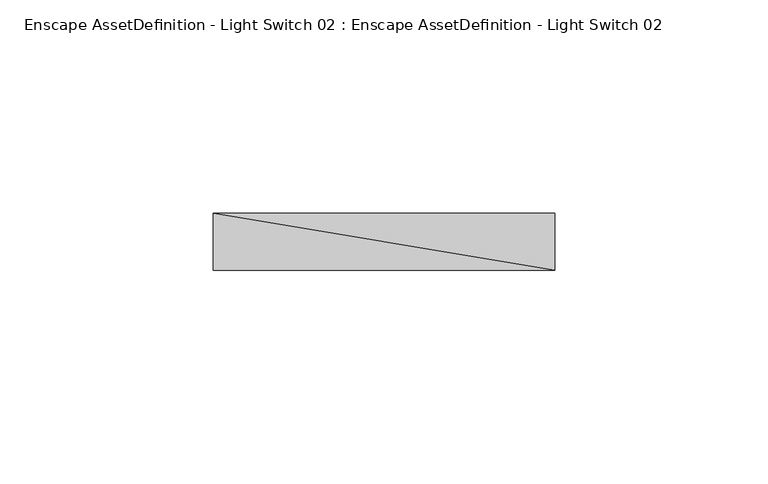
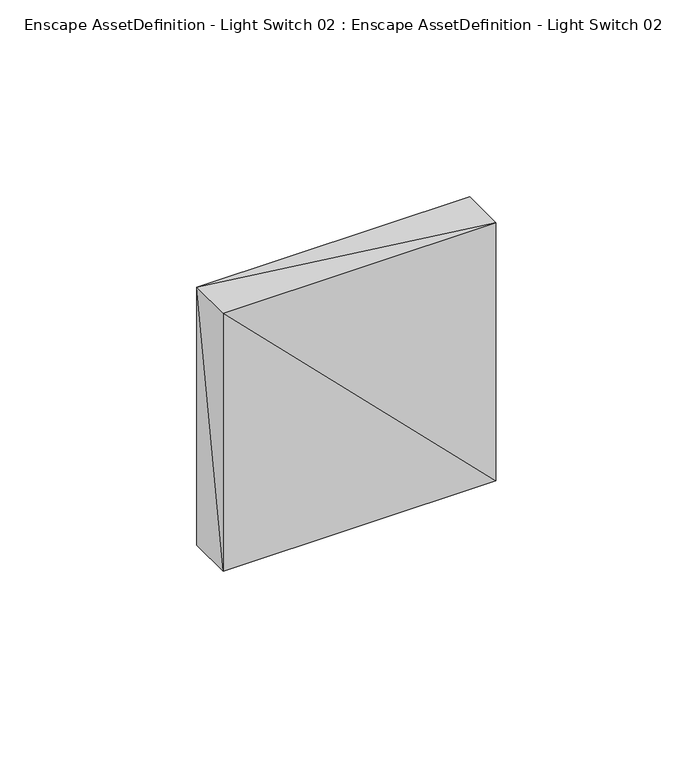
"""IFC4 building model written with IfcOpenShell, lengths in millimetres: geographic element geometry, Enscape AssetDefinition - Light Switch 02 : Enscape AssetDefinition - Light Switch 02."""

from ifc_helpers import new_model, si_unit, origin, place, context, project, spatial, faceted_brep, source, transform, mapped, element, save


def enscape_assetdefinition_light_switch_02_enscape_f65dbdaa(model_context):
    return source(origin(), model_context, "Body", "Brep", [
        faceted_brep([(-39.9999991, 0.0, 39.9999991), (-39.9999991, -13.3290002, 39.9999991), (39.9999991, -13.3290002, 39.9999991), (39.9999991, 0.0, 39.9999991), (-39.9999991, -13.3290002, -39.9999991), (-39.9999991, 0.0, -39.9999991), (39.9999991, -13.3290002, -39.9999991), (39.9999991, 0.0, -39.9999991)], [[[0, 1, 2]], [[0, 2, 3]], [[4, 1, 0]], [[4, 0, 5]], [[6, 2, 1]], [[6, 1, 4]], [[7, 3, 2]], [[7, 2, 6]], [[5, 0, 3]], [[5, 3, 7]], [[5, 6, 4]], [[5, 7, 6]]]),
    ])


if __name__ == "__main__":
    model = new_model("IFC4")
    model_context = context("Model", 3, world=origin())
    ifc_project = project(units=[si_unit("LENGTHUNIT", "METRE", prefix="MILLI")], contexts=[model_context])
    site = spatial("IfcSite", under=ifc_project)
    building = spatial("IfcBuilding", under=site)
    placement = place(None, origin())
    enscape_assetdefinition_light_switch_02_enscape_shape = enscape_assetdefinition_light_switch_02_enscape_f65dbdaa(model_context)
    element("IfcGeographicElement", 1, ObjectType="Enscape AssetDefinition - Light Switch 02 : Enscape AssetDefinition - Light Switch 02", at=placement, inside=building, context=model_context, shape_type="MappedRepresentation", body=[
        mapped(enscape_assetdefinition_light_switch_02_enscape_shape, transform((0.0, 0.0, 0.0), x_axis=(1.0, 0.0, 0.0), y_axis=(0.0, 1.0, 0.0), z_axis=(0.0, 0.0, 1.0))),
    ])
    save(model, "model.ifc")
